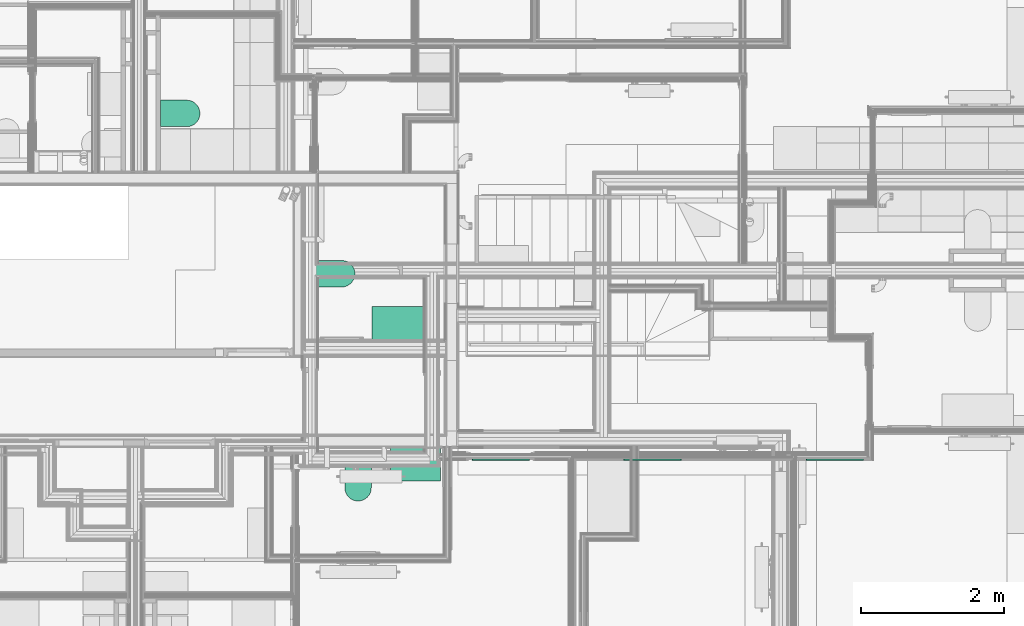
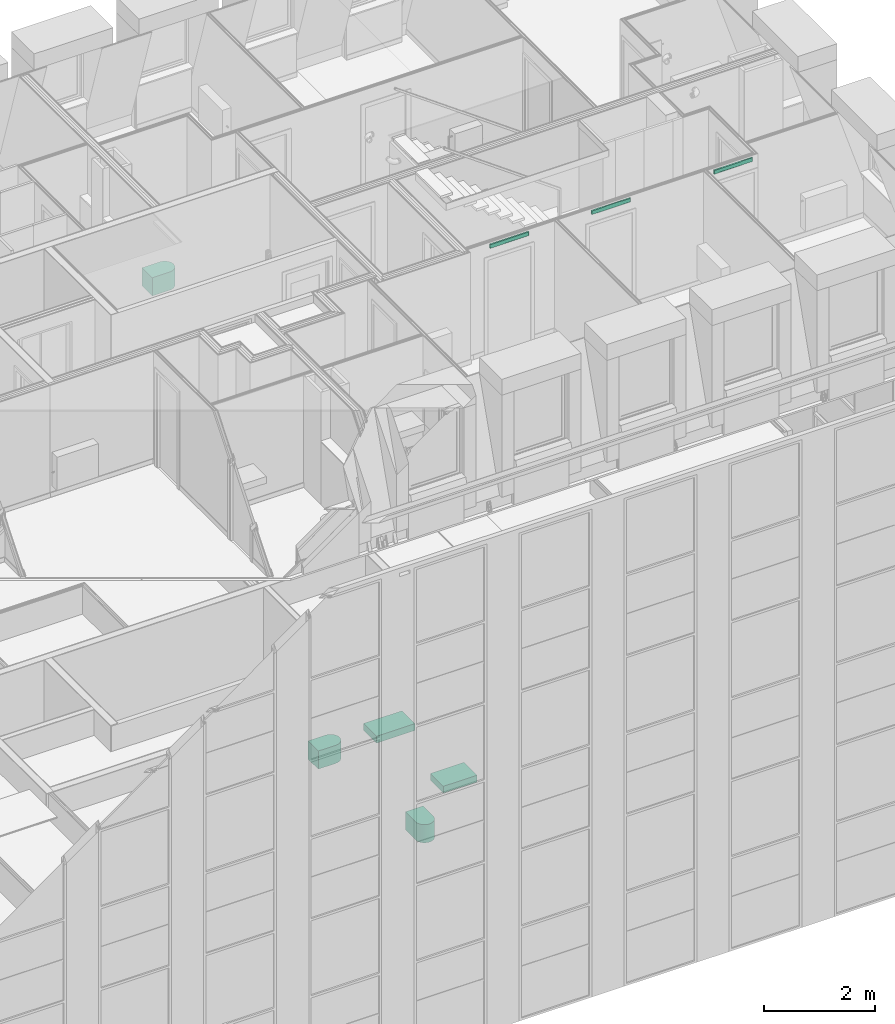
# One storey, part 160 of 169: 8 flow terminals.
"""IFC2X3 building model written with IfcOpenShell, lengths in metres."""

import ifcopenshell
import ifcopenshell.guid

model = None  # the IFC model being written
_history = None  # IfcOwnerHistory: only IFC2X3 demands one
_inside = {}  # id of a spatial element -> (the spatial element, [elements in it])
_under = {}  # id of a project, library or spatial element -> (it, [spatial elements below it])
_declared = {}  # id of a project -> (the project, [libraries it declares])
_typed = {}  # id of a type object -> (the type object, [elements of that type])
_made_of = {}  # id of a material, layer set ... -> (it, [elements and type objects made of it])


def new_model(schema):
    """Start an empty IFC model of exactly this schema.

    Asked for "IFC4X3", IfcOpenShell would pick the latest addendum, in which some entities
    have other attributes; the version numbers below select the first issue.
    IFC2X3 requires an IfcOwnerHistory on every rooted entity: one is made here for all.
    """
    global model, _history
    if schema == "IFC4X3":
        model = ifcopenshell.file(schema_version=(4, 3, 0, 0))
    else:
        model = ifcopenshell.file(schema=schema)
    _inside.clear()
    _under.clear()
    _declared.clear()
    _typed.clear()
    _made_of.clear()
    _history = None
    if model.schema == "IFC2X3":
        org = make("IfcOrganization", Name="unknown")
        user = make(
            "IfcPersonAndOrganization",
            ThePerson=make("IfcPerson", FamilyName="unknown"),
            TheOrganization=org,
        )
        app = make(
            "IfcApplication",
            ApplicationDeveloper=org,
            Version="unknown",
            ApplicationFullName="unknown",
            ApplicationIdentifier="unknown",
        )
        _history = make(
            "IfcOwnerHistory",
            OwningUser=user,
            OwningApplication=app,
            ChangeAction="ADDED",
            CreationDate=0,
        )
    return model


def make(cls, **values):
    """One entity of the class cls with the attributes given. An attribute that is None is left unset."""
    return model.create_entity(
        cls, **{name: value for name, value in values.items() if value is not None}
    )


def entity(cls, *values):
    """Any entity or typed value of the class cls, its attributes in the order of the schema. None: left unset."""
    e = model.create_entity(cls)
    for i, value in enumerate(values):
        if value is not None:
            e[i] = value
    return e


def rooted(cls, **values):
    """An entity with a GlobalId (a new one), such as an element, a storey or a relation."""
    return make(cls, GlobalId=ifcopenshell.guid.new(), OwnerHistory=_history, **values)


def si_unit(unit_type, name, prefix=None):
    """IfcSIUnit, for example si_unit("LENGTHUNIT", "METRE", prefix="MILLI")."""
    return make("IfcSIUnit", UnitType=unit_type, Prefix=prefix, Name=name)


def converted_unit(unit_type, name, factor, base, dimensions=None, offset=None):
    """IfcConversionBasedUnit, such as the inch: factor (a typed value) times the base unit."""
    return make(
        "IfcConversionBasedUnit"
        if offset is None
        else "IfcConversionBasedUnitWithOffset",
        ConversionOffset=offset,
        Dimensions=None
        if dimensions is None
        else entity("IfcDimensionalExponents", *dimensions),
        UnitType=unit_type,
        Name=name,
        ConversionFactor=make(
            "IfcMeasureWithUnit", ValueComponent=factor, UnitComponent=base
        ),
    )


def derived_unit(unit_type, elements):
    """IfcDerivedUnit: a product of units, each with its exponent."""
    return make(
        "IfcDerivedUnit",
        Elements=[
            make("IfcDerivedUnitElement", Unit=unit, Exponent=power)
            for unit, power in elements
        ],
        UnitType=unit_type,
    )


def money_unit(currency):
    """IfcMonetaryUnit."""
    return make("IfcMonetaryUnit", Currency=currency)


def assignment(units):
    """IfcUnitAssignment: the units of a project."""
    return None if units is None else make("IfcUnitAssignment", Units=units)


def point(xyz):
    """IfcCartesianPoint."""
    return None if xyz is None else make("IfcCartesianPoint", Coordinates=xyz)


def direction(xyz):
    """IfcDirection."""
    return None if xyz is None else make("IfcDirection", DirectionRatios=xyz)


def frame(location, z_axis=None, x_axis=None):
    """IfcAxis2Placement3D, a coordinate frame: its origin and axes. An axis left out is left unset."""
    return make(
        "IfcAxis2Placement3D",
        Location=point(location),
        Axis=direction(z_axis),
        RefDirection=direction(x_axis),
    )


def origin_with_axes():
    """The frame at (0, 0, 0) with the z axis (0, 0, 1) and the x axis (1, 0, 0) written out."""
    return frame((0.0, 0.0, 0.0), z_axis=(0.0, 0.0, 1.0), x_axis=(1.0, 0.0, 0.0))


def place(relative_to, where):
    """IfcLocalPlacement: puts the frame where relative to a parent placement (None: the world)."""
    return make(
        "IfcLocalPlacement", PlacementRelTo=relative_to, RelativePlacement=where
    )


def context(
    kind, dimensions, precision=None, world=None, true_north=None, identifier=None
):
    """IfcGeometricRepresentationContext, for example the 3D "Model" context."""
    return make(
        "IfcGeometricRepresentationContext",
        ContextIdentifier=identifier,
        ContextType=kind,
        CoordinateSpaceDimension=dimensions,
        Precision=precision,
        WorldCoordinateSystem=world,
        TrueNorth=true_north,
    )


def subcontext(parent, identifier, kind, view, scale=None):
    """IfcGeometricRepresentationSubContext, for example "Body" below "Model"."""
    return make(
        "IfcGeometricRepresentationSubContext",
        ContextIdentifier=identifier,
        ContextType=kind,
        ParentContext=parent,
        TargetScale=scale,
        TargetView=view,
    )


def project(units=None, contexts=None):
    """IfcProject with its units and contexts."""
    return rooted(
        "IfcProject",
        Name="project",
        RepresentationContexts=contexts,
        UnitsInContext=assignment(units),
    )


def spatial(cls, under=None, at=None, **own):
    """A site, building, storey or space (cls), placed at a placement, below another one or the project."""
    s = rooted(cls, ObjectPlacement=at, **own)
    if under is not None:
        _under.setdefault(under.id(), (under, []))[1].append(s)
    return s


def faces_of(points, faces, orient=None, outer=None):
    """IfcFace entities. A face is a list of loops; a loop is a list of indices into points, from 0.

    orient and outer hold one flag for each loop. By default every Orientation is true, the
    first loop of a face is its IfcFaceOuterBound and the others are IfcFaceBound.
    """
    made = []
    for i, loops in enumerate(faces):
        bounds = []
        for j, loop in enumerate(loops):
            is_outer = j == 0 if outer is None else outer[i][j]
            bounds.append(
                make(
                    "IfcFaceOuterBound" if is_outer else "IfcFaceBound",
                    Bound=make("IfcPolyLoop", Polygon=[points[k] for k in loop]),
                    Orientation=True if orient is None else orient[i][j],
                )
            )
        made.append(make("IfcFace", Bounds=bounds))
    return made


def open_shell(faces, orient=None, outer=None):
    """The faces of one IfcOpenShell. surface_model builds it on its shared points."""
    return ("IfcOpenShell", faces, orient, outer)


def faceted_brep(points, faces, orient=None, outer=None, voids=None):
    """IfcFacetedBrep: a solid bounded by flat faces; with voids (closed shells), ...WithVoids."""
    shared = [point(p) for p in points]
    hull = make("IfcClosedShell", CfsFaces=faces_of(shared, faces, orient, outer))
    if voids is None:
        return make("IfcFacetedBrep", Outer=hull)
    return make(
        "IfcFacetedBrepWithVoids",
        Outer=hull,
        Voids=[
            make(cls, CfsFaces=faces_of(shared, fs, o, b)) for cls, fs, o, b in voids
        ],
    )


def surface_model(cls, points, shells):
    """IfcFaceBasedSurfaceModel or IfcShellBasedSurfaceModel (cls): surfaces that need not close."""
    shared = [point(p) for p in points]
    made = [make(c, CfsFaces=faces_of(shared, fs, o, b)) for c, fs, o, b in shells]
    if cls == "IfcFaceBasedSurfaceModel":
        return make(cls, FbsmFaces=made)
    return make(cls, SbsmBoundary=made)


def shape(context_of_items, identifier, shape_type, items):
    """IfcShapeRepresentation: the items that make up one representation, for example the "Body"."""
    return make(
        "IfcShapeRepresentation",
        ContextOfItems=context_of_items,
        RepresentationIdentifier=identifier,
        RepresentationType=shape_type,
        Items=items,
    )


def material(Name=None, Category=None):
    """IfcMaterial."""
    return make("IfcMaterial", Name=Name, Category=Category)


def made_of(thing, what):
    """Note that an element or type object is made of a material, layer set ...; save() writes the relation."""
    if what is not None:
        _made_of.setdefault(what.id(), (what, []))[1].append(thing)
    return thing


def type_object(cls, material=None, **own):
    """A type object (cls), such as IfcWallType, which elements share."""
    return made_of(rooted(cls, **own), material)


def element(
    cls,
    number,
    at=None,
    inside=None,
    cuts=None,
    type_object=None,
    material=None,
    context=None,
    identifier="Body",
    shape_type=None,
    held_by="IfcProductDefinitionShape",
    body=None,
    shapes=None,
    **own,
):
    """One element of the class cls, such as IfcWall. Its Tag is "e" and its number.

    at: its placement. inside: the storey or other place that contains it. cuts: it is an
    opening in that element (IfcRelVoidsElement). A single representation is given by context,
    identifier, shape_type and body (its items); several are given by shapes. held_by: the class
    of the entity that holds the representations. save() writes the other relations.
    """
    e = rooted(cls, Tag="e%d" % number, ObjectPlacement=at, **own)
    if body is not None:
        shapes = [shape(context, identifier, shape_type, body)]
    if shapes is not None:
        e.Representation = make(held_by, Representations=shapes)
    if inside is not None:
        _inside.setdefault(inside.id(), (inside, []))[1].append(e)
    if cuts is not None:
        rooted(
            "IfcRelVoidsElement", RelatingBuildingElement=cuts, RelatedOpeningElement=e
        )
    if type_object is not None:
        _typed.setdefault(type_object.id(), (type_object, []))[1].append(e)
    return made_of(e, material)


def aggregate(whole, parts):
    """IfcRelAggregates: a whole, such as a stair, and the parts it consists of."""
    return rooted("IfcRelAggregates", RelatingObject=whole, RelatedObjects=parts)


def save(model, path):
    """Write the relations noted so far, then the file.

    IfcRelAggregates (storeys below a building ...), IfcRelContainedInSpatialStructure (elements
    in a storey), IfcRelDefinesByType, IfcRelAssociatesMaterial and IfcRelDeclares: one each for
    every whole, place, type object, material and project.
    """
    for whole, parts in _under.values():
        aggregate(whole, parts)
    for where, things in _inside.values():
        rooted(
            "IfcRelContainedInSpatialStructure",
            RelatedElements=things,
            RelatingStructure=where,
        )
    for kind, things in _typed.values():
        rooted("IfcRelDefinesByType", RelatedObjects=things, RelatingType=kind)
    for what, things in _made_of.values():
        rooted("IfcRelAssociatesMaterial", RelatedObjects=things, RelatingMaterial=what)
    for by, libraries in _declared.values():
        rooted("IfcRelDeclares", RelatingContext=by, RelatedDefinitions=libraries)
    model.write(path)


model = new_model("IFC2X3")

# Units and contexts
model_context = context("Model", 3, precision=1e-05, world=origin_with_axes(), true_north=direction((0.0, 1.0)))
body_context = subcontext(model_context, "Body", "Model", "MODEL_VIEW", scale=1.0)
ifc_project = project(units=[si_unit("LENGTHUNIT", "METRE"), si_unit("AREAUNIT", "SQUARE_METRE"), si_unit("VOLUMEUNIT", "CUBIC_METRE"), si_unit("ABSORBEDDOSEUNIT", "GRAY"), si_unit("AMOUNTOFSUBSTANCEUNIT", "MOLE"), si_unit("DOSEEQUIVALENTUNIT", "SIEVERT"), si_unit("ELECTRICCAPACITANCEUNIT", "FARAD"), si_unit("ELECTRICCHARGEUNIT", "COULOMB"), si_unit("ELECTRICCONDUCTANCEUNIT", "SIEMENS"), si_unit("ELECTRICCURRENTUNIT", "AMPERE"), si_unit("ELECTRICRESISTANCEUNIT", "OHM"), si_unit("ELECTRICVOLTAGEUNIT", "VOLT"), si_unit("ENERGYUNIT", "JOULE"), si_unit("FORCEUNIT", "NEWTON"), si_unit("FREQUENCYUNIT", "HERTZ"), si_unit("ILLUMINANCEUNIT", "LUX"), si_unit("INDUCTANCEUNIT", "HENRY"), si_unit("LUMINOUSFLUXUNIT", "LUMEN"), si_unit("LUMINOUSINTENSITYUNIT", "CANDELA"), si_unit("MAGNETICFLUXDENSITYUNIT", "TESLA"), si_unit("MAGNETICFLUXUNIT", "WEBER"), si_unit("MASSUNIT", "GRAM"), converted_unit("PLANEANGLEUNIT", "degree", entity("IfcReal", 0.0174532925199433), si_unit("PLANEANGLEUNIT", "RADIAN"), dimensions=[0, 0, 0, 0, 0, 0, 0]), si_unit("POWERUNIT", "WATT"), si_unit("PRESSUREUNIT", "PASCAL"), si_unit("RADIOACTIVITYUNIT", "BECQUEREL"), si_unit("SOLIDANGLEUNIT", "STERADIAN"), si_unit("THERMODYNAMICTEMPERATUREUNIT", "KELVIN"), si_unit("TIMEUNIT", "SECOND"), derived_unit("ACCELERATIONUNIT", [(si_unit("LENGTHUNIT", "METRE"), 1), (si_unit("TIMEUNIT", "SECOND"), -2)]), derived_unit("ANGULARVELOCITYUNIT", [(converted_unit("PLANEANGLEUNIT", "degree", entity("IfcReal", 0.0174532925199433), si_unit("PLANEANGLEUNIT", "RADIAN"), dimensions=[0, 0, 0, 0, 0, 0, 0]), 1), (si_unit("TIMEUNIT", "SECOND"), -1)]), derived_unit("CURVATUREUNIT", [(converted_unit("PLANEANGLEUNIT", "degree", entity("IfcReal", 0.0174532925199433), si_unit("PLANEANGLEUNIT", "RADIAN"), dimensions=[0, 0, 0, 0, 0, 0, 0]), 1), (si_unit("LENGTHUNIT", "METRE"), -1)]), derived_unit("DYNAMICVISCOSITYUNIT", [(si_unit("PRESSUREUNIT", "PASCAL"), 1), (si_unit("TIMEUNIT", "SECOND"), 1)]), derived_unit("HEATFLUXDENSITYUNIT", [(si_unit("POWERUNIT", "WATT"), 1), (si_unit("LENGTHUNIT", "METRE"), -2)]), derived_unit("HEATINGVALUEUNIT", [(si_unit("ENERGYUNIT", "JOULE"), 1), (si_unit("MASSUNIT", "GRAM"), -1)]), derived_unit("INTEGERCOUNTRATEUNIT", [(si_unit("TIMEUNIT", "SECOND"), -1)]), derived_unit("IONCONCENTRATIONUNIT", [(si_unit("MASSUNIT", "GRAM"), 1), (si_unit("VOLUMEUNIT", "CUBIC_METRE"), -1)]), derived_unit("ISOTHERMALMOISTURECAPACITYUNIT", [(si_unit("VOLUMEUNIT", "CUBIC_METRE"), 1), (si_unit("MASSUNIT", "GRAM"), -1)]), derived_unit("KINEMATICVISCOSITYUNIT", [(si_unit("AREAUNIT", "SQUARE_METRE"), 1), (si_unit("TIMEUNIT", "SECOND"), -1)]), derived_unit("LINEARFORCEUNIT", [(si_unit("FORCEUNIT", "NEWTON"), 1), (si_unit("LENGTHUNIT", "METRE"), -1)]), derived_unit("LINEARMOMENTUNIT", [(si_unit("FORCEUNIT", "NEWTON"), 1), (si_unit("LENGTHUNIT", "METRE"), -1)]), derived_unit("LINEARSTIFFNESSUNIT", [(si_unit("FORCEUNIT", "NEWTON"), 1), (si_unit("LENGTHUNIT", "METRE"), -1)]), derived_unit("LINEARVELOCITYUNIT", [(si_unit("LENGTHUNIT", "METRE"), 1), (si_unit("TIMEUNIT", "SECOND"), -1)]), derived_unit("LUMINOUSINTENSITYDISTRIBUTIONUNIT", [(si_unit("LUMINOUSINTENSITYUNIT", "CANDELA"), 1), (si_unit("LUMINOUSFLUXUNIT", "LUMEN"), -1)]), derived_unit("MASSDENSITYUNIT", [(si_unit("MASSUNIT", "GRAM"), 1), (si_unit("VOLUMEUNIT", "CUBIC_METRE"), -1)]), derived_unit("MASSFLOWRATEUNIT", [(si_unit("MASSUNIT", "GRAM"), 1), (si_unit("TIMEUNIT", "SECOND"), -1)]), derived_unit("MASSPERLENGTHUNIT", [(si_unit("MASSUNIT", "GRAM"), 1), (si_unit("LENGTHUNIT", "METRE"), -1)]), derived_unit("MODULUSOFELASTICITYUNIT", [(si_unit("FORCEUNIT", "NEWTON"), 1), (si_unit("AREAUNIT", "SQUARE_METRE"), -1)]), derived_unit("MODULUSOFLINEARSUBGRADEREACTIONUNIT", [(si_unit("FORCEUNIT", "NEWTON"), 1), (si_unit("LENGTHUNIT", "METRE"), -2)]), derived_unit("MODULUSOFROTATIONALSUBGRADEREACTIONUNIT", [(si_unit("FORCEUNIT", "NEWTON"), 1), (si_unit("LENGTHUNIT", "METRE"), 1)]), derived_unit("MODULUSOFSUBGRADEREACTIONUNIT", [(si_unit("FORCEUNIT", "NEWTON"), 1), (si_unit("VOLUMEUNIT", "CUBIC_METRE"), -1)]), derived_unit("MOISTUREDIFFUSIVITYUNIT", [(si_unit("VOLUMEUNIT", "CUBIC_METRE"), 1), (si_unit("TIMEUNIT", "SECOND"), -1)]), derived_unit("MOLECULARWEIGHTUNIT", [(si_unit("MASSUNIT", "GRAM"), 1), (si_unit("AMOUNTOFSUBSTANCEUNIT", "MOLE"), -1)]), derived_unit("PLANARFORCEUNIT", [(si_unit("FORCEUNIT", "NEWTON"), 1), (si_unit("LENGTHUNIT", "METRE"), -2)]), derived_unit("ROTATIONALFREQUENCYUNIT", [(si_unit("TIMEUNIT", "SECOND"), -1)]), derived_unit("ROTATIONALMASSUNIT", [(si_unit("MASSUNIT", "GRAM"), 1), (si_unit("LENGTHUNIT", "METRE"), 2)]), derived_unit("ROTATIONALSTIFFNESSUNIT", [(si_unit("FORCEUNIT", "NEWTON"), 1), (si_unit("LENGTHUNIT", "METRE"), 1), (converted_unit("PLANEANGLEUNIT", "degree", entity("IfcReal", 0.0174532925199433), si_unit("PLANEANGLEUNIT", "RADIAN"), dimensions=[0, 0, 0, 0, 0, 0, 0]), -1)]), derived_unit("SECTIONAREAINTEGRALUNIT", [(si_unit("LENGTHUNIT", "METRE"), 5)]), derived_unit("SECTIONMODULUSUNIT", [(si_unit("LENGTHUNIT", "METRE"), 3)]), derived_unit("SHEARMODULUSUNIT", [(si_unit("FORCEUNIT", "NEWTON"), 1), (si_unit("AREAUNIT", "SQUARE_METRE"), -1)]), derived_unit("SOUNDPOWERUNIT", [(si_unit("ENERGYUNIT", "JOULE"), 1), (si_unit("TIMEUNIT", "SECOND"), -1)]), derived_unit("SPECIFICHEATCAPACITYUNIT", [(si_unit("FORCEUNIT", "NEWTON"), 1), (si_unit("MASSUNIT", "GRAM"), -1), (si_unit("THERMODYNAMICTEMPERATUREUNIT", "KELVIN"), -1)]), derived_unit("TEMPERATUREGRADIENTUNIT", [(si_unit("THERMODYNAMICTEMPERATUREUNIT", "KELVIN"), 1), (si_unit("LENGTHUNIT", "METRE"), -1)]), derived_unit("THERMALADMITTANCEUNIT", [(si_unit("POWERUNIT", "WATT"), 1), (si_unit("AREAUNIT", "SQUARE_METRE"), -1), (si_unit("THERMODYNAMICTEMPERATUREUNIT", "KELVIN"), -1)]), derived_unit("THERMALCONDUCTANCEUNIT", [(si_unit("POWERUNIT", "WATT"), 1), (si_unit("LENGTHUNIT", "METRE"), -1), (si_unit("THERMODYNAMICTEMPERATUREUNIT", "KELVIN"), -1)]), derived_unit("THERMALEXPANSIONCOEFFICIENTUNIT", [(si_unit("THERMODYNAMICTEMPERATUREUNIT", "KELVIN"), -1)]), derived_unit("THERMALRESISTANCEUNIT", [(si_unit("AREAUNIT", "SQUARE_METRE"), 1), (si_unit("POWERUNIT", "WATT"), -1)]), derived_unit("THERMALTRANSMITTANCEUNIT", [(si_unit("POWERUNIT", "WATT"), 1), (si_unit("AREAUNIT", "SQUARE_METRE"), -1), (si_unit("THERMODYNAMICTEMPERATUREUNIT", "KELVIN"), -1)]), derived_unit("TORQUEUNIT", [(si_unit("FORCEUNIT", "NEWTON"), 1), (si_unit("LENGTHUNIT", "METRE"), 1)]), derived_unit("VAPORPERMEABILITYUNIT", [(si_unit("MASSUNIT", "GRAM"), 1), (si_unit("TIMEUNIT", "SECOND"), -1)]), derived_unit("VOLUMETRICFLOWRATEUNIT", [(si_unit("VOLUMEUNIT", "CUBIC_METRE"), 1), (si_unit("TIMEUNIT", "SECOND"), -1)]), derived_unit("WARPINGCONSTANTUNIT", [(si_unit("LENGTHUNIT", "METRE"), 6)]), derived_unit("WARPINGMOMENTUNIT", [(si_unit("FORCEUNIT", "NEWTON"), 1), (si_unit("LENGTHUNIT", "METRE"), 2)]), money_unit("GBP")], contexts=[model_context])

# Site, building, storey, space
site_placement = place(None, origin_with_axes())
site = spatial("IfcSite", under=ifc_project, at=site_placement, Name="Site", CompositionType="ELEMENT")
building_placement = place(site_placement, origin_with_axes())
building = spatial("IfcBuilding", under=site, at=building_placement, Name="Building01", CompositionType="ELEMENT")
storey_placement = place(building_placement, frame((0.0, 0.0, 5.15), z_axis=(0.0, 0.0, 1.0), x_axis=(1.0, 0.0, 0.0)))
storey = spatial("IfcBuildingStorey", under=building, at=storey_placement, Name="1F", CompositionType="ELEMENT", Elevation=5.15)
space_1_placement = place(storey_placement, frame((22.740024, 4.817, 9.86), z_axis=(0.0, 0.0, 1.0), x_axis=(0.0, -1.0, 0.0)))
space_1 = spatial("IfcSpace", under=storey, at=space_1_placement, Name="3", CompositionType="ELEMENT", InteriorOrExteriorSpace="NOTDEFINED")

# Flow terminal
ifc_material = material(Name="M_BSUK_Ventilation")
air_terminal_type = type_object("IfcAirTerminalType", Name="M-RectBarSlotsEndGrille-BarSlots", PredefinedType="REGISTER")
flow_terminal_1_placement = place(storey_placement, frame((23.265012, 4.817, 12.223), z_axis=(0.0, 0.0, 1.0), x_axis=(0.0, -1.0, 0.0)))
element("IfcFlowTerminal", 1, at=flow_terminal_1_placement, inside=space_1, type_object=air_terminal_type, material=ifc_material, Name="M-RectBarSlotsEndGrille-BarSlots", ObjectType="M-RectBarSlotsEndGrille-BarSlots", context=body_context, shape_type="SurfaceModel", body=[
    surface_model("IfcShellBasedSurfaceModel", [(0.02, -0.36, -0.0349), (0.02, -0.36, -0.036), (0.02, 0.36, -0.036), (0.02, 0.36, -0.0349), (0.02, -0.36, 0.036), (0.02, -0.36, 0.0349), (0.02, 0.36, 0.0349), (0.02, 0.36, 0.036), (0.02, -0.36, -0.0277), (0.02, -0.36, -0.0299), (0.02, 0.36, -0.0299), (0.02, 0.36, -0.0277), (0.02, -0.36, -0.0205), (0.02, -0.36, -0.0227), (0.02, 0.36, -0.0227), (0.02, 0.36, -0.0205), (0.02, -0.36, -0.0133), (0.02, -0.36, -0.0155), (0.02, 0.36, -0.0155), (0.02, 0.36, -0.0133), (0.02, -0.36, -0.0061), (0.02, -0.36, -0.0083), (0.02, 0.36, -0.0083), (0.02, 0.36, -0.0061), (0.02, -0.36, 0.0011), (0.02, -0.36, -0.0011), (0.02, 0.36, -0.0011), (0.02, 0.36, 0.0011), (0.02, -0.36, 0.0083), (0.02, -0.36, 0.0061), (0.02, 0.36, 0.0061), (0.02, 0.36, 0.0083), (0.02, -0.36, 0.0155), (0.02, -0.36, 0.0133), (0.02, 0.36, 0.0133), (0.02, 0.36, 0.0155), (0.02, -0.36, 0.0227), (0.02, -0.36, 0.0205), (0.02, 0.36, 0.0205), (0.02, 0.36, 0.0227), (0.02, -0.36, 0.0299), (0.02, -0.36, 0.0277), (0.02, 0.36, 0.0277), (0.02, 0.36, 0.0299), (0.02, -0.4, -0.04), (0.02, -0.4, 0.04), (0.0, -0.4, 0.04), (0.0, -0.4, -0.04), (0.02, 0.4, 0.04), (0.0, 0.4, 0.04), (0.02, 0.4, -0.04), (0.0, 0.4, -0.04)], [open_shell([[[0, 1, 2, 3]], [[4, 5, 6, 7]], [[8, 9, 10, 11]], [[12, 13, 14, 15]], [[16, 17, 18, 19]], [[20, 21, 22, 23]], [[24, 25, 26, 27]], [[28, 29, 30, 31]], [[32, 33, 34, 35]], [[36, 37, 38, 39]], [[40, 41, 42, 43]], [[44, 45, 46, 47]], [[45, 48, 49, 46]], [[50, 44, 47, 51]], [[48, 50, 51, 49]], [[44, 50, 48, 45], [7, 2, 1, 4]]])]),
])

# Space
space_2_placement = place(storey_placement, frame((17.73844, 7.349915, 9.86), z_axis=(0.0, 0.0, 1.0), x_axis=(0.0, -1.0, 0.0)))
space_2 = spatial("IfcSpace", under=storey, at=space_2_placement, Name="24", CompositionType="ELEMENT", InteriorOrExteriorSpace="NOTDEFINED")

# Flow terminals
for number, where, z_axis, x_axis, name in (
    (2, (20.719976, 4.817, 12.223), (0.0, 0.0, 1.0), (0.0, -1.0, 0.0), "M-RectBarSlotsEndGrille-BarSlots"),
    (3, (18.599976, 4.817, 12.223), (0.0, 0.0, 1.0), (0.0, -1.0, 0.0), "M-RectBarSlotsEndGrille-BarSlots"),
):
    element("IfcFlowTerminal", number, at=place(storey_placement, frame(where, z_axis=z_axis, x_axis=x_axis)), inside=space_2, type_object=air_terminal_type, material=ifc_material, Name=name, ObjectType="M-RectBarSlotsEndGrille-BarSlots", context=body_context, shape_type="SurfaceModel", body=[
        surface_model("IfcShellBasedSurfaceModel", [(0.02, -0.36, -0.0349), (0.02, -0.36, -0.036), (0.02, 0.36, -0.036), (0.02, 0.36, -0.0349), (0.02, -0.36, 0.036), (0.02, -0.36, 0.0349), (0.02, 0.36, 0.0349), (0.02, 0.36, 0.036), (0.02, -0.36, -0.0277), (0.02, -0.36, -0.0299), (0.02, 0.36, -0.0299), (0.02, 0.36, -0.0277), (0.02, -0.36, -0.0205), (0.02, -0.36, -0.0227), (0.02, 0.36, -0.0227), (0.02, 0.36, -0.0205), (0.02, -0.36, -0.0133), (0.02, -0.36, -0.0155), (0.02, 0.36, -0.0155), (0.02, 0.36, -0.0133), (0.02, -0.36, -0.0061), (0.02, -0.36, -0.0083), (0.02, 0.36, -0.0083), (0.02, 0.36, -0.0061), (0.02, -0.36, 0.0011), (0.02, -0.36, -0.0011), (0.02, 0.36, -0.0011), (0.02, 0.36, 0.0011), (0.02, -0.36, 0.0083), (0.02, -0.36, 0.0061), (0.02, 0.36, 0.0061), (0.02, 0.36, 0.0083), (0.02, -0.36, 0.0155), (0.02, -0.36, 0.0133), (0.02, 0.36, 0.0133), (0.02, 0.36, 0.0155), (0.02, -0.36, 0.0227), (0.02, -0.36, 0.0205), (0.02, 0.36, 0.0205), (0.02, 0.36, 0.0227), (0.02, -0.36, 0.0299), (0.02, -0.36, 0.0277), (0.02, 0.36, 0.0277), (0.02, 0.36, 0.0299), (0.02, -0.4, -0.04), (0.02, -0.4, 0.04), (0.0, -0.4, 0.04), (0.0, -0.4, -0.04), (0.02, 0.4, 0.04), (0.0, 0.4, 0.04), (0.02, 0.4, -0.04), (0.0, 0.4, -0.04)], [open_shell([[[0, 1, 2, 3]], [[4, 5, 6, 7]], [[8, 9, 10, 11]], [[12, 13, 14, 15]], [[16, 17, 18, 19]], [[20, 21, 22, 23]], [[24, 25, 26, 27]], [[28, 29, 30, 31]], [[32, 33, 34, 35]], [[36, 37, 38, 39]], [[40, 41, 42, 43]], [[44, 45, 46, 47]], [[45, 48, 49, 46]], [[50, 44, 47, 51]], [[48, 50, 51, 49]], [[44, 50, 48, 45], [7, 2, 1, 4]]])]),
    ])

# Space
space_3_placement = place(storey_placement, frame((15.83, 8.65, 0.017975), z_axis=(0.0, 0.0, 1.0), x_axis=(0.0, -1.0, 0.0)))
space_3 = spatial("IfcSpace", under=storey, at=space_3_placement, Name="bath", CompositionType="ELEMENT", InteriorOrExteriorSpace="NOTDEFINED")

# Flow terminals
sanitary_terminal_type_1 = type_object("IfcSanitaryTerminalType", Name="SHE_A-Sink_47x80", PredefinedType="NOTDEFINED")
flow_terminal_2_placement = place(storey_placement, frame((17.2, 6.71, 0.825), z_axis=(0.0, 0.0, 1.0), x_axis=(0.0, -1.0, 0.0)))
element("IfcFlowTerminal", 4, at=flow_terminal_2_placement, inside=space_3, type_object=sanitary_terminal_type_1, Name="02", ObjectType="SHE_A-Sink_47x80", context=body_context, shape_type="Brep", body=[
    faceted_brep([(-0.235, 0.4, -0.075), (-0.235, 0.4, 0.075), (0.235, 0.4, 0.075), (0.235, 0.4, -0.075), (-0.235, -0.4, -0.075), (-0.235, -0.4, 0.075), (0.235, -0.4, -0.075), (0.235, -0.4, 0.075)], [[[0, 1, 2, 3]], [[4, 5, 1, 0]], [[6, 7, 5, 4]], [[3, 2, 7, 6]], [[1, 5, 7, 2]], [[3, 6, 4, 0]]]),
])
sanitary_terminal_type_2 = type_object("IfcSanitaryTerminalType", Name="SHE_A-Toilet_base", PredefinedType="NOTDEFINED")
flow_terminal_3_placement = place(storey_placement, frame((16.290003, 7.40388, 0.2), z_axis=(0.0, 0.0, 1.0), x_axis=(1.0, 0.0, 0.0)))
element("IfcFlowTerminal", 5, at=flow_terminal_3_placement, inside=space_3, type_object=sanitary_terminal_type_2, Name="02", ObjectType="SHE_A-Toilet_base", context=body_context, shape_type="Brep", body=[
    faceted_brep([(0.089995, 0.185008, -0.2), (0.126088, 0.181454, -0.2), (0.160795, 0.170926, -0.2), (0.19278, 0.153829, -0.2), (0.220816, 0.130821, -0.2), (0.243824, 0.102785, -0.2), (0.26092, 0.0708, -0.2), (0.271448, 0.036093, -0.2), (0.275003, 0.0, -0.2), (0.271448, -0.036093, -0.2), (0.26092, -0.0708, -0.2), (0.243824, -0.102785, -0.2), (0.220816, -0.130821, -0.2), (0.19278, -0.153829, -0.2), (0.160795, -0.170926, -0.2), (0.126088, -0.181454, -0.2), (0.089995, -0.185009, -0.2), (-0.275003, -0.185009, -0.2), (-0.275003, 0.185008, -0.2), (-0.275003, 0.185008, 0.2), (-0.275003, -0.185009, 0.2), (0.089995, -0.185009, 0.2), (0.126088, -0.181454, 0.2), (0.160795, -0.170926, 0.2), (0.19278, -0.153829, 0.2), (0.220816, -0.130821, 0.2), (0.243824, -0.102785, 0.2), (0.26092, -0.0708, 0.2), (0.271448, -0.036093, 0.2), (0.275003, 0.0, 0.2), (0.271448, 0.036093, 0.2), (0.26092, 0.0708, 0.2), (0.243824, 0.102785, 0.2), (0.220816, 0.130821, 0.2), (0.19278, 0.153829, 0.2), (0.160795, 0.170926, 0.2), (0.126088, 0.181454, 0.2), (0.089995, 0.185008, 0.2)], [[[0, 1, 2, 3, 4, 5, 6, 7, 8, 9, 10, 11, 12, 13, 14, 15, 16, 17, 18]], [[19, 20, 21, 22, 23, 24, 25, 26, 27, 28, 29, 30, 31, 32, 33, 34, 35, 36, 37]], [[15, 22, 21, 16]], [[14, 23, 22, 15]], [[13, 24, 23, 14]], [[12, 25, 24, 13]], [[11, 26, 25, 12]], [[10, 27, 26, 11]], [[9, 28, 27, 10]], [[8, 29, 28, 9]], [[7, 30, 29, 8]], [[6, 31, 30, 7]], [[5, 32, 31, 6]], [[4, 33, 32, 5]], [[3, 34, 33, 4]], [[2, 35, 34, 3]], [[1, 36, 35, 2]], [[0, 37, 36, 1]], [[16, 21, 20, 17]], [[17, 20, 19, 18]], [[18, 19, 37, 0]]]),
])

# Space
space_4_placement = place(storey_placement, frame((14.85, 4.98, 0.017975), z_axis=(0.0, 0.0, 1.0), x_axis=(0.0, -1.0, 0.0)))
space_4 = spatial("IfcSpace", under=storey, at=space_4_placement, Name="04", CompositionType="ELEMENT", InteriorOrExteriorSpace="NOTDEFINED")

# Flow terminal
flow_terminal_4_placement = place(storey_placement, frame((16.607508, 4.504997, 0.2), z_axis=(0.0, 0.0, 1.0), x_axis=(0.0, 1.0, 0.0)))
element("IfcFlowTerminal", 6, at=flow_terminal_4_placement, inside=space_4, type_object=sanitary_terminal_type_2, Name="04", ObjectType="SHE_A-Toilet_base", context=body_context, shape_type="Brep", body=[
    faceted_brep([(0.275003, 0.185008, -0.2), (0.275003, -0.185009, -0.2), (-0.089995, -0.185009, -0.2), (-0.126088, -0.181454, -0.2), (-0.160795, -0.170926, -0.2), (-0.19278, -0.153829, -0.2), (-0.220816, -0.130821, -0.2), (-0.243824, -0.102785, -0.2), (-0.26092, -0.0708, -0.2), (-0.271448, -0.036093, -0.2), (-0.275003, 0.0, -0.2), (-0.271448, 0.036093, -0.2), (-0.26092, 0.0708, -0.2), (-0.243824, 0.102785, -0.2), (-0.220816, 0.130821, -0.2), (-0.19278, 0.153829, -0.2), (-0.160795, 0.170926, -0.2), (-0.126088, 0.181454, -0.2), (-0.089995, 0.185008, -0.2), (-0.089995, 0.185008, 0.2), (-0.126088, 0.181454, 0.2), (-0.160795, 0.170926, 0.2), (-0.19278, 0.153829, 0.2), (-0.220816, 0.130821, 0.2), (-0.243824, 0.102785, 0.2), (-0.26092, 0.0708, 0.2), (-0.271448, 0.036093, 0.2), (-0.275003, 0.0, 0.2), (-0.271448, -0.036093, 0.2), (-0.26092, -0.0708, 0.2), (-0.243824, -0.102785, 0.2), (-0.220816, -0.130821, 0.2), (-0.19278, -0.153829, 0.2), (-0.160795, -0.170926, 0.2), (-0.126088, -0.181454, 0.2), (-0.089995, -0.185009, 0.2), (0.275003, -0.185009, 0.2), (0.275003, 0.185008, 0.2)], [[[0, 1, 2, 3, 4, 5, 6, 7, 8, 9, 10, 11, 12, 13, 14, 15, 16, 17, 18]], [[19, 20, 21, 22, 23, 24, 25, 26, 27, 28, 29, 30, 31, 32, 33, 34, 35, 36, 37]], [[2, 35, 34, 3]], [[3, 34, 33, 4]], [[4, 33, 32, 5]], [[5, 32, 31, 6]], [[6, 31, 30, 7]], [[7, 30, 29, 8]], [[8, 29, 28, 9]], [[9, 28, 27, 10]], [[10, 27, 26, 11]], [[11, 26, 25, 12]], [[12, 25, 24, 13]], [[13, 24, 23, 14]], [[14, 23, 22, 15]], [[15, 22, 21, 16]], [[16, 21, 20, 17]], [[17, 20, 19, 18]], [[1, 36, 35, 2]], [[0, 37, 36, 1]], [[18, 19, 37, 0]]]),
])

# Space
space_5_placement = place(storey_placement, frame((15.449998, 10.983789, 9.843842), z_axis=(0.0, 0.0, 1.0), x_axis=(-1.0, 0.0, 0.0)))
space_5 = spatial("IfcSpace", under=storey, at=space_5_placement, Name="bath", CompositionType="ELEMENT", InteriorOrExteriorSpace="NOTDEFINED")

# Flow terminal
flow_terminal_5_placement = place(storey_placement, frame((14.125001, 9.642856, 10.026), z_axis=(0.0, 0.0, 1.0), x_axis=(-1.0, 0.0, 0.0)))
element("IfcFlowTerminal", 7, at=flow_terminal_5_placement, inside=space_5, type_object=sanitary_terminal_type_2, Name="23", ObjectType="SHE_A-Toilet_base", context=body_context, shape_type="Brep", body=[
    faceted_brep([(0.275003, 0.185008, -0.2), (0.275003, -0.185009, -0.2), (-0.089995, -0.185009, -0.2), (-0.126088, -0.181454, -0.2), (-0.160795, -0.170926, -0.2), (-0.19278, -0.153829, -0.2), (-0.220816, -0.130821, -0.2), (-0.243824, -0.102785, -0.2), (-0.26092, -0.0708, -0.2), (-0.271448, -0.036093, -0.2), (-0.275003, 0.0, -0.2), (-0.271448, 0.036093, -0.2), (-0.26092, 0.0708, -0.2), (-0.243824, 0.102785, -0.2), (-0.220816, 0.130821, -0.2), (-0.19278, 0.153829, -0.2), (-0.160795, 0.170926, -0.2), (-0.126088, 0.181454, -0.2), (-0.089995, 0.185008, -0.2), (-0.089995, 0.185008, 0.2), (-0.126088, 0.181454, 0.2), (-0.160795, 0.170926, 0.2), (-0.19278, 0.153829, 0.2), (-0.220816, 0.130821, 0.2), (-0.243824, 0.102785, 0.2), (-0.26092, 0.0708, 0.2), (-0.271448, 0.036093, 0.2), (-0.275003, 0.0, 0.2), (-0.271448, -0.036093, 0.2), (-0.26092, -0.0708, 0.2), (-0.243824, -0.102785, 0.2), (-0.220816, -0.130821, 0.2), (-0.19278, -0.153829, 0.2), (-0.160795, -0.170926, 0.2), (-0.126088, -0.181454, 0.2), (-0.089995, -0.185009, 0.2), (0.275003, -0.185009, 0.2), (0.275003, 0.185008, 0.2)], [[[0, 1, 2, 3, 4, 5, 6, 7, 8, 9, 10, 11, 12, 13, 14, 15, 16, 17, 18]], [[19, 20, 21, 22, 23, 24, 25, 26, 27, 28, 29, 30, 31, 32, 33, 34, 35, 36, 37]], [[2, 35, 34, 3]], [[3, 34, 33, 4]], [[4, 33, 32, 5]], [[5, 32, 31, 6]], [[6, 31, 30, 7]], [[7, 30, 29, 8]], [[8, 29, 28, 9]], [[9, 28, 27, 10]], [[10, 27, 26, 11]], [[11, 26, 25, 12]], [[12, 25, 24, 13]], [[13, 24, 23, 14]], [[14, 23, 22, 15]], [[15, 22, 21, 16]], [[16, 21, 20, 17]], [[17, 20, 19, 18]], [[1, 36, 35, 2]], [[0, 37, 36, 1]], [[18, 19, 37, 0]]]),
])

# Space
space_6_placement = place(storey_placement, frame((17.8075, 4.98, 0.017975), z_axis=(0.0, 0.0, 1.0), x_axis=(-1.0, 0.0, 0.0)))
space_6 = spatial("IfcSpace", under=storey, at=space_6_placement, Name="bath", CompositionType="ELEMENT", InteriorOrExteriorSpace="NOTDEFINED")

# Flow terminal
sanitary_terminal_type_3 = type_object("IfcSanitaryTerminalType", Name="SHE_A-Sink_47x70", PredefinedType="NOTDEFINED")
flow_terminal_6_placement = place(storey_placement, frame((17.4075, 4.745, 0.825), z_axis=(0.0, 0.0, 1.0), x_axis=(0.0, -1.0, 0.0)))
element("IfcFlowTerminal", 8, at=flow_terminal_6_placement, inside=space_6, type_object=sanitary_terminal_type_3, Name="04", ObjectType="SHE_A-Sink_47x70", context=body_context, shape_type="Brep", body=[
    faceted_brep([(-0.235, 0.35, -0.075), (-0.235, 0.35, 0.075), (0.235, 0.35, 0.075), (0.235, 0.35, -0.075), (0.235, -0.35, 0.075), (0.235, -0.35, -0.075), (-0.235, -0.35, 0.075), (-0.235, -0.35, -0.075)], [[[0, 1, 2, 3]], [[3, 2, 4, 5]], [[5, 4, 6, 7]], [[7, 6, 1, 0]], [[1, 6, 4, 2]], [[3, 5, 7, 0]]]),
])

save(model, "model.ifc")
